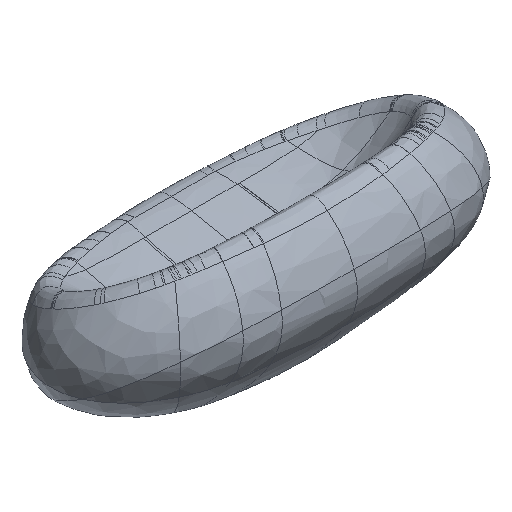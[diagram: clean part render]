
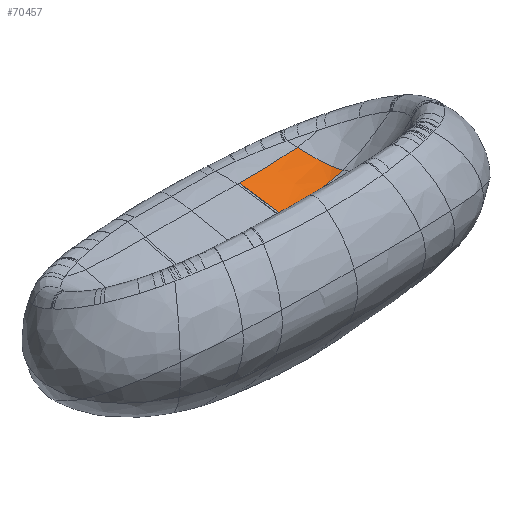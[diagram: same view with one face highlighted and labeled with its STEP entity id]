
A CAD part, isometric view. The second image highlights one B-rep face of the part: STEP entity #70457.
In plain terms, the highlighted free-form (B-spline) face has degree [5, 5] with [9, 6] control points.
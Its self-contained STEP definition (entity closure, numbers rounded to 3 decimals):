
#51123=CARTESIAN_POINT('Vertex',(243.878,270.158,306.908)) ;
#57914=CARTESIAN_POINT('Vertex',(232.753,470.246,347.219)) ;
#57918=CARTESIAN_POINT('Control Point',(232.753,470.246,347.219)) ;
#57919=CARTESIAN_POINT('Control Point',(253.459,470.246,347.278)) ;
#57920=CARTESIAN_POINT('Control Point',(274.122,470.246,347.342)) ;
#57921=CARTESIAN_POINT('Control Point',(294.752,470.246,347.411)) ;
#57922=CARTESIAN_POINT('Control Point',(324.851,470.246,347.526)) ;
#57923=CARTESIAN_POINT('Control Point',(354.894,470.246,347.77)) ;
#57924=CARTESIAN_POINT('Control Point',(364.34,470.246,347.864)) ;
#57925=CARTESIAN_POINT('Control Point',(394.365,470.246,348.242)) ;
#57926=CARTESIAN_POINT('Control Point',(424.34,470.246,348.956)) ;
#57927=CARTESIAN_POINT('Control Point',(444.806,470.246,349.693)) ;
#57928=CARTESIAN_POINT('Control Point',(471.499,470.246,351.181)) ;
#57929=CARTESIAN_POINT('Control Point',(497.952,470.246,353.662)) ;
#57930=CARTESIAN_POINT('Control Point',(504.125,470.246,354.301)) ;
#57931=CARTESIAN_POINT('Control Point',(510.28,470.246,355.006)) ;
#57932=CARTESIAN_POINT('Control Point',(516.416,470.246,355.781)) ;
#57933=CARTESIAN_POINT('Vertex',(516.416,470.246,355.781)) ;
#58007=CARTESIAN_POINT('Control Point',(232.753,470.246,347.219)) ;
#58008=CARTESIAN_POINT('Control Point',(237.435,426.253,339.117)) ;
#58009=CARTESIAN_POINT('Control Point',(238.995,387.522,329.965)) ;
#58010=CARTESIAN_POINT('Control Point',(237.582,352.814,325.231)) ;
#58011=CARTESIAN_POINT('Control Point',(239.255,314.38,313.691)) ;
#58012=CARTESIAN_POINT('Control Point',(243.878,270.158,306.908)) ;
#59392=CARTESIAN_POINT('Control Point',(243.878,270.158,306.908)) ;
#59393=CARTESIAN_POINT('Control Point',(269.609,270.158,307.592)) ;
#59394=CARTESIAN_POINT('Control Point',(295.183,270.158,308.668)) ;
#59395=CARTESIAN_POINT('Control Point',(320.625,270.158,310.146)) ;
#59396=CARTESIAN_POINT('Control Point',(356.71,270.158,312.975)) ;
#59397=CARTESIAN_POINT('Control Point',(392.55,270.158,317.164)) ;
#59398=CARTESIAN_POINT('Control Point',(403.238,270.158,318.55)) ;
#59399=CARTESIAN_POINT('Control Point',(431.773,270.158,322.655)) ;
#59400=CARTESIAN_POINT('Control Point',(460.177,270.158,327.945)) ;
#59401=CARTESIAN_POINT('Control Point',(477.903,270.158,331.796)) ;
#59402=CARTESIAN_POINT('Control Point',(500.43,270.158,337.518)) ;
#59403=CARTESIAN_POINT('Control Point',(522.807,270.158,344.364)) ;
#59404=CARTESIAN_POINT('Control Point',(527.648,270.158,345.901)) ;
#59405=CARTESIAN_POINT('Control Point',(532.481,270.158,347.493)) ;
#59406=CARTESIAN_POINT('Control Point',(537.306,270.158,349.14)) ;
#59407=CARTESIAN_POINT('Vertex',(537.306,270.158,349.14)) ;
#70389=CARTESIAN_POINT('Control Point',(232.753,470.246,347.219)) ;
#70390=CARTESIAN_POINT('Control Point',(237.435,426.253,339.117)) ;
#70391=CARTESIAN_POINT('Control Point',(238.995,387.522,329.965)) ;
#70392=CARTESIAN_POINT('Control Point',(237.582,352.814,325.231)) ;
#70393=CARTESIAN_POINT('Control Point',(239.255,314.38,313.691)) ;
#70394=CARTESIAN_POINT('Control Point',(243.878,270.158,306.908)) ;
#70395=CARTESIAN_POINT('Control Point',(261.062,470.246,347.299)) ;
#70396=CARTESIAN_POINT('Control Point',(265.969,426.255,339.373)) ;
#70397=CARTESIAN_POINT('Control Point',(267.782,387.528,330.316)) ;
#70398=CARTESIAN_POINT('Control Point',(266.643,352.919,325.23)) ;
#70399=CARTESIAN_POINT('Control Point',(268.65,314.424,313.945)) ;
#70400=CARTESIAN_POINT('Control Point',(273.531,270.158,307.697)) ;
#70401=CARTESIAN_POINT('Control Point',(289.371,470.246,347.39)) ;
#70402=CARTESIAN_POINT('Control Point',(294.367,426.257,339.667)) ;
#70403=CARTESIAN_POINT('Control Point',(296.417,387.533,330.794)) ;
#70404=CARTESIAN_POINT('Control Point',(295.642,353.015,325.565)) ;
#70405=CARTESIAN_POINT('Control Point',(298.041,314.467,314.569)) ;
#70406=CARTESIAN_POINT('Control Point',(303.17,270.158,309.01)) ;
#70407=CARTESIAN_POINT('Control Point',(317.846,470.246,347.488)) ;
#70408=CARTESIAN_POINT('Control Point',(322.849,426.231,339.984)) ;
#70409=CARTESIAN_POINT('Control Point',(325.116,387.52,331.394)) ;
#70410=CARTESIAN_POINT('Control Point',(324.747,353.128,326.233)) ;
#70411=CARTESIAN_POINT('Control Point',(327.58,314.535,315.575)) ;
#70412=CARTESIAN_POINT('Control Point',(332.956,270.158,310.884)) ;
#70413=CARTESIAN_POINT('Control Point',(374.736,470.246,347.748)) ;
#70414=CARTESIAN_POINT('Control Point',(379.628,426.281,340.661)) ;
#70415=CARTESIAN_POINT('Control Point',(382.309,387.587,332.829)) ;
#70416=CARTESIAN_POINT('Control Point',(382.788,353.389,327.875)) ;
#70417=CARTESIAN_POINT('Control Point',(386.561,314.594,318.389)) ;
#70418=CARTESIAN_POINT('Control Point',(392.372,270.158,316.154)) ;
#70419=CARTESIAN_POINT('Control Point',(431.611,470.246,349.051)) ;
#70420=CARTESIAN_POINT('Control Point',(436.323,426.158,342.265)) ;
#70421=CARTESIAN_POINT('Control Point',(439.402,387.479,335.584)) ;
#70422=CARTESIAN_POINT('Control Point',(440.756,353.725,331.108)) ;
#70423=CARTESIAN_POINT('Control Point',(445.392,314.663,323.993)) ;
#70424=CARTESIAN_POINT('Control Point',(451.268,270.158,325.641)) ;
#70425=CARTESIAN_POINT('Control Point',(460.129,470.246,350.189)) ;
#70426=CARTESIAN_POINT('Control Point',(464.765,426.049,343.517)) ;
#70427=CARTESIAN_POINT('Control Point',(468.052,387.359,337.512)) ;
#70428=CARTESIAN_POINT('Control Point',(469.864,353.858,333.301)) ;
#70429=CARTESIAN_POINT('Control Point',(474.86,314.661,327.77)) ;
#70430=CARTESIAN_POINT('Control Point',(480.61,270.158,331.743)) ;
#70431=CARTESIAN_POINT('Control Point',(488.365,470.246,352.239)) ;
#70432=CARTESIAN_POINT('Control Point',(492.983,425.8,345.627)) ;
#70433=CARTESIAN_POINT('Control Point',(496.475,387.058,340.395)) ;
#70434=CARTESIAN_POINT('Control Point',(498.741,353.869,336.655)) ;
#70435=CARTESIAN_POINT('Control Point',(503.929,314.606,333.042)) ;
#70436=CARTESIAN_POINT('Control Point',(509.254,270.158,339.564)) ;
#70437=CARTESIAN_POINT('Control Point',(516.416,470.246,355.781)) ;
#70438=CARTESIAN_POINT('Control Point',(521.093,425.481,349.226)) ;
#70439=CARTESIAN_POINT('Control Point',(524.791,386.637,344.839)) ;
#70440=CARTESIAN_POINT('Control Point',(527.574,353.723,341.684)) ;
#70441=CARTESIAN_POINT('Control Point',(532.682,314.523,340.246)) ;
#70442=CARTESIAN_POINT('Control Point',(537.306,270.158,349.14)) ;
#70444=CARTESIAN_POINT('Control Point',(516.416,470.246,355.781)) ;
#70445=CARTESIAN_POINT('Control Point',(521.093,425.481,349.226)) ;
#70446=CARTESIAN_POINT('Control Point',(524.791,386.637,344.839)) ;
#70447=CARTESIAN_POINT('Control Point',(527.574,353.723,341.684)) ;
#70448=CARTESIAN_POINT('Control Point',(532.682,314.523,340.246)) ;
#70449=CARTESIAN_POINT('Control Point',(537.306,270.158,349.14)) ;
#57935=EDGE_CURVE('',#57915,#57934,#57917,.T.) ;
#58013=EDGE_CURVE('',#57915,#51124,#58006,.T.) ;
#59409=EDGE_CURVE('',#51124,#59408,#59391,.T.) ;
#70450=EDGE_CURVE('',#57934,#59408,#70443,.T.) ;
#70452=ORIENTED_EDGE('',*,*,#57935,.F.) ;
#70453=ORIENTED_EDGE('',*,*,#58013,.T.) ;
#70454=ORIENTED_EDGE('',*,*,#59409,.T.) ;
#70455=ORIENTED_EDGE('',*,*,#70450,.F.) ;
#70451=EDGE_LOOP('',(#70452,#70453,#70454,#70455)) ;
#51124=VERTEX_POINT('',#51123) ;
#57915=VERTEX_POINT('',#57914) ;
#57934=VERTEX_POINT('',#57933) ;
#59408=VERTEX_POINT('',#59407) ;
#70457=ADVANCED_FACE('Divano-BOOM',(#70456),#70388,.F.) ;
#57917=B_SPLINE_CURVE_WITH_KNOTS('',5,(#57918,#57919,#57920,#57921,#57922,#57923,#57924,#57925,#57926,#57927,#57928,#57929,#57930,#57931,#57932),.UNSPECIFIED.,.F.,.U.,(6,3,3,3,6),(0.,147.3,214.943,362.384,407.393),.UNSPECIFIED.) ;
#58006=B_SPLINE_CURVE_WITH_KNOTS('',5,(#58007,#58008,#58009,#58010,#58011,#58012),.UNSPECIFIED.,.F.,.U.,(6,6),(0.,205.023),.UNSPECIFIED.) ;
#59391=B_SPLINE_CURVE_WITH_KNOTS('',5,(#59392,#59393,#59394,#59395,#59396,#59397,#59398,#59399,#59400,#59401,#59402,#59403,#59404,#59405,#59406),.UNSPECIFIED.,.F.,.U.,(6,3,3,3,6),(0.,179.997,256.746,385.146,420.657),.UNSPECIFIED.) ;
#70443=B_SPLINE_CURVE_WITH_KNOTS('',5,(#70444,#70445,#70446,#70447,#70448,#70449),.UNSPECIFIED.,.F.,.U.,(6,6),(0.,203.906),.UNSPECIFIED.) ;
#70388=B_SPLINE_SURFACE_WITH_KNOTS('',5,5,((#70389,#70390,#70391,#70392,#70393,#70394),(#70395,#70396,#70397,#70398,#70399,#70400),(#70401,#70402,#70403,#70404,#70405,#70406),(#70407,#70408,#70409,#70410,#70411,#70412),(#70413,#70414,#70415,#70416,#70417,#70418),(#70419,#70420,#70421,#70422,#70423,#70424),(#70425,#70426,#70427,#70428,#70429,#70430),(#70431,#70432,#70433,#70434,#70435,#70436),(#70437,#70438,#70439,#70440,#70441,#70442)),.UNSPECIFIED.,.F.,.F.,.U.,(6,3,6),(6,6),(0.,144.849,289.736),(0.,203.906),.UNSPECIFIED.) ;
#70456=FACE_OUTER_BOUND('',#70451,.T.) ;
